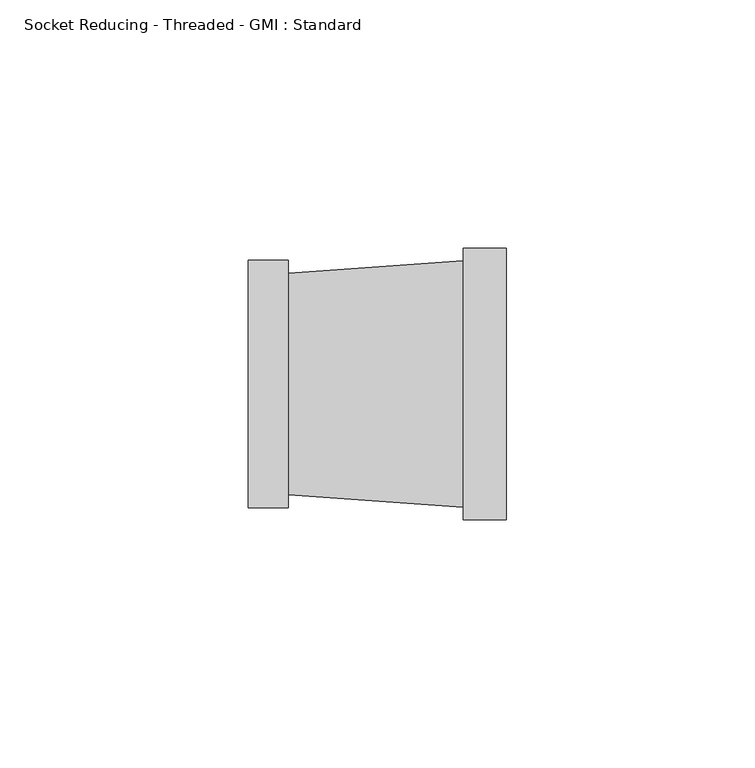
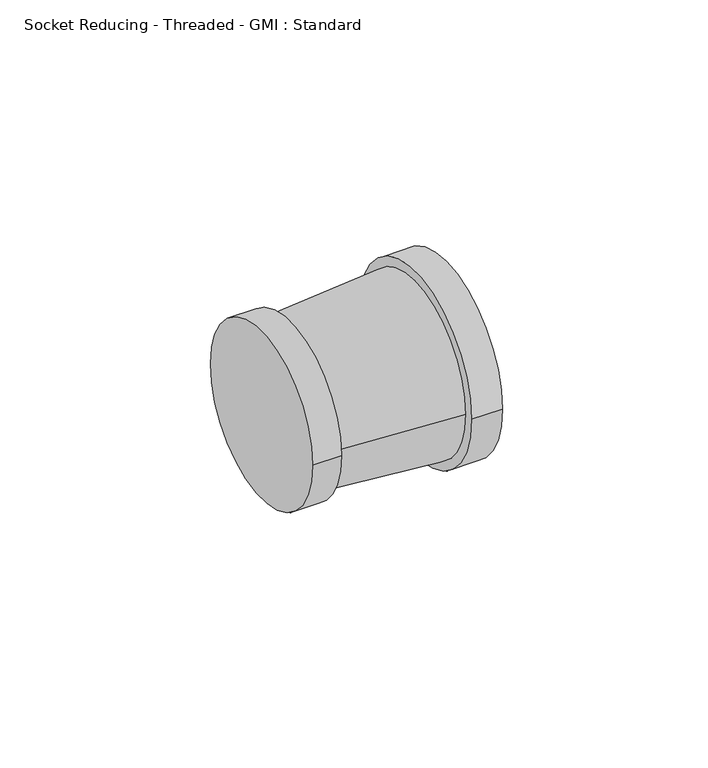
"""IFC4 building model written with IfcOpenShell, lengths in millimetres: pipe fitting geometry, Socket Reducing - Threaded - GMI : Standard."""

from ifc_helpers import new_model, si_unit, point, frame, origin, origin_2d, place, context, project, spatial, polyline, circle_curve, trimmed, segment, composite_curve, outline, extrude, source, transform, mapped, element, save
from ifc_brep_helpers import plane_surface, revolved_surface, advanced_brep


def socket_reducing_threaded_gmi_standard_0a4076b8(model_context):
    return source(origin(), model_context, "Body", "SolidModel", [
        extrude(outline(composite_curve([segment(trimmed(circle_curve(origin_2d(), 27.35), [point((-27.35, 0.0))], [point((27.35, 0.0))], False, "CARTESIAN"), True, "CONTINUOUS"), segment(trimmed(circle_curve(origin_2d(), 27.35), [point((27.35, 0.0))], [point((-27.35, 0.0))], False, "CARTESIAN"), True, "CONTINUOUS")], self_intersect=False)), frame((43.3, 0.0, 0.0), z_axis=(1.0, 0.0, 0.0), x_axis=(0.0, 1.0, 0.0)), (0.0, 0.0, 1.0), 8.7),
        advanced_brep(
        [(43.3, -24.78, 0.0), (43.3, 24.78, 0.0), (8.1, -22.35, 0.0), (8.1, 22.35, 0.0)],
        [
            (0, 1, circle_curve(frame((43.3, 0.0, 0.0), z_axis=(1.0, 0.0, 0.0), x_axis=(0.0, -1.0, 0.0)), 24.78)),
            (1, 0, circle_curve(frame((43.3, 0.0, 0.0), z_axis=(1.0, 0.0, 0.0), x_axis=(0.0, 1.0, 0.0)), 24.78)),
            (2, 3, circle_curve(frame((8.1, 0.0, 0.0), z_axis=(-1.0, 0.0, 0.0), x_axis=(0.0, 1.0, 0.0)), 22.35)),
            (3, 2, circle_curve(frame((8.1, 0.0, 0.0), z_axis=(-1.0, 0.0, 0.0), x_axis=(0.0, -1.0, 0.0)), 22.35)),
            (3, 1),
            (0, 2),
        ],
        [
            plane_surface(frame((43.3, 0.0, 0.0), z_axis=(1.0, 0.0, 0.0), x_axis=(0.0, 0.0, -1.0))),
            plane_surface(frame((8.1, 0.0, 0.0), z_axis=(-1.0, 0.0, 0.0), x_axis=(0.0, 0.0, -1.0))),
            revolved_surface(polyline([(8.100000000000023, 22.349999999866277, 0.0), (43.30000000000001, 24.78, 0.0)]), (-315.6530864, 0.0, 0.0), (1.0, 0.0, 0.0)),
            revolved_surface(polyline([(8.100000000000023, -22.349999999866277, 0.0), (43.30000000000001, -24.78, 0.0)]), (-315.6530864, 0.0, 0.0), (1.0, 0.0, 0.0)),
        ],
        [
            (0, [[1, 2]]),
            (1, [[3, 4]]),
            (2, [[-4, 5, -1, 6]]),
            (3, [[-3, -6, -2, -5]]),
        ],
    ),
        extrude(outline(composite_curve([segment(trimmed(circle_curve(origin_2d(), 24.9), [point((-24.9, 0.0))], [point((24.9, 0.0))], False, "CARTESIAN"), True, "CONTINUOUS"), segment(trimmed(circle_curve(origin_2d(), 24.9), [point((24.9, 0.0))], [point((-24.9, 0.0))], False, "CARTESIAN"), True, "CONTINUOUS")], self_intersect=False)), frame((0.0, 0.0, 0.0), z_axis=(1.0, 0.0, 0.0), x_axis=(0.0, 1.0, 0.0)), (0.0, 0.0, 1.0), 8.1),
    ])


if __name__ == "__main__":
    model = new_model("IFC4")
    model_context = context("Model", 3, world=origin())
    ifc_project = project(units=[si_unit("LENGTHUNIT", "METRE", prefix="MILLI")], contexts=[model_context])
    site = spatial("IfcSite", under=ifc_project)
    building = spatial("IfcBuilding", under=site)
    placement = place(None, origin())
    socket_reducing_threaded_gmi_standard_shape = socket_reducing_threaded_gmi_standard_0a4076b8(model_context)
    element("IfcPipeFitting", 1, ObjectType="Socket Reducing - Threaded - GMI : Standard", at=placement, inside=building, context=model_context, shape_type="MappedRepresentation", body=[
        mapped(socket_reducing_threaded_gmi_standard_shape, transform((0.0, 0.0, 0.0), x_axis=(1.0, 0.0, 0.0), y_axis=(0.0, 1.0, 0.0), z_axis=(0.0, 0.0, 1.0))),
    ])
    save(model, "model.ifc")
